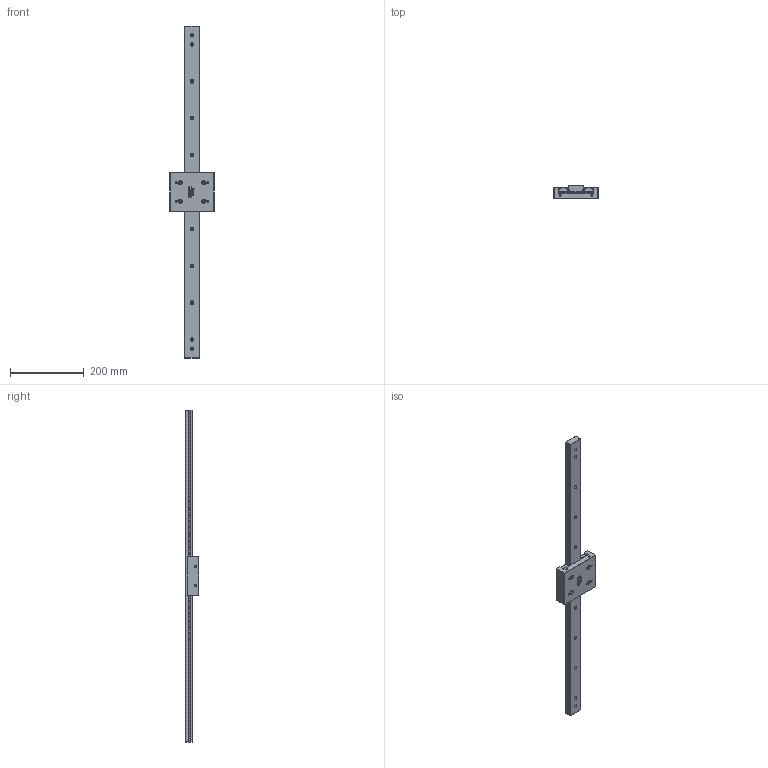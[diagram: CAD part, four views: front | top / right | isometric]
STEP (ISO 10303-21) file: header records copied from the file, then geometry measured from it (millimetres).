
FILE_DESCRIPTION(/* description */ ('TAVOLA TRKD06 L= 900 mm'),/* implementation_level */ '2;1');
FILE_NAME(/* name */ 'TRKD060900-00.stp',/* time_stamp */ '2024-01-25T10:57:16+01:00',/* author */ ('Rosa Sistemi'),/* organization */ (''),/* preprocessor_version */ 'ST-DEVELOPER v20',/* originating_system */ 'Autodesk Inventor 2024',/* authorisation */ '');
FILE_SCHEMA (('AUTOMOTIVE_DESIGN { 1 0 10303 214 3 1 1 }'));
Length unit declared in the file: millimetre
Products named in the file (2): TRKD060900-00; TRKD060900-00_1
Assembly tree (1 placements, depth 2):
  TRKD060900-00
    TRKD060900-00_1
Bounding box: 120 x 36 x 900 mm (x, y, z)
Volume: 982284.9 mm3; surface area: 186097.6 mm2
Topology: 13 solids, 13 shells, 692 faces, 1777 edges, 1143 vertices
Faces by surface type: plane 421, cylinder 97, cone 88, bspline 36, sphere 26, torus 24
Full cylindrical faces by diameter (mm): 2 x2, 2.795 x1, 4.134 x4, 4.917 x21, 6 x15, 7 x3, 7.687 x1, 9.5 x9, 9.9 x4, 10 x4, 11 x4
Entity records: 21982 total; most frequent: CARTESIAN_POINT 4617, ORIENTED_EDGE 3426, DIRECTION 3342, EDGE_CURVE 1713, AXIS2_PLACEMENT_3D 1152, VERTEX_POINT 1143, LINE 1038, VECTOR 1038
